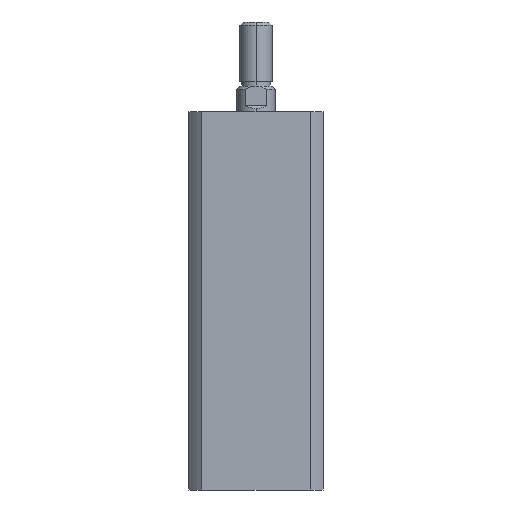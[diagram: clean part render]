
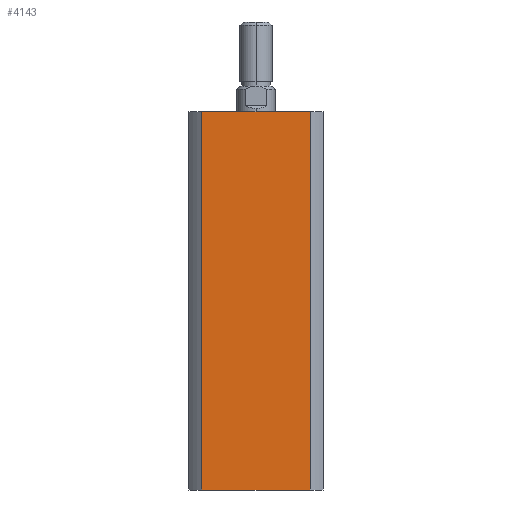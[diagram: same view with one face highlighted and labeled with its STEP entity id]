
A CAD part, left-side view. The second image highlights one B-rep face of the part: STEP entity #4143.
In plain terms, the highlighted planar face has unit normal (-1, 0, 0).
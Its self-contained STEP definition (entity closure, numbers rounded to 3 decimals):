
#102 = ORIENTED_EDGE ( 'NONE', *, *, #4358, .F. ) ;
#103 = ORIENTED_EDGE ( 'NONE', *, *, #396, .F. ) ;
#104 = ORIENTED_EDGE ( 'NONE', *, *, #4359, .F. ) ;
#105 = ORIENTED_EDGE ( 'NONE', *, *, #1452, .T. ) ;
#396 = EDGE_CURVE ( 'NONE', #1358, #1386, #2300, .T. ) ;
#445 = CARTESIAN_POINT ( 'NONE',  ( -21., 21., 118. ) ) ;
#454 = PLANE ( 'NONE',  #1525 ) ;
#456 = DIRECTION ( 'NONE',  ( 1., 0., 0. ) ) ;
#457 = DIRECTION ( 'NONE',  ( 0., 1., 0. ) ) ;
#1190 = EDGE_LOOP ( 'NONE', ( #102, #103, #104, #105 ) ) ;
#1358 = VERTEX_POINT ( 'NONE', #3147 ) ;
#1360 = VERTEX_POINT ( 'NONE', #3148 ) ;
#1364 = VERTEX_POINT ( 'NONE', #3154 ) ;
#1386 = VERTEX_POINT ( 'NONE', #3173 ) ;
#1452 = EDGE_CURVE ( 'NONE', #1360, #1364, #2425, .T. ) ;
#1525 = AXIS2_PLACEMENT_3D ( 'NONE', #445, #456, #457 ) ;
#1759 = LINE ( 'NONE', #2588, #1762 ) ;
#1761 = LINE ( 'NONE', #2590, #1764 ) ;
#1762 = VECTOR ( 'NONE', #2589, 1000. ) ;
#1764 = VECTOR ( 'NONE', #2591, 1000. ) ;
#2300 = LINE ( 'NONE', #5110, #2305 ) ;
#2305 = VECTOR ( 'NONE', #5129, 1000. ) ;
#2425 = LINE ( 'NONE', #3323, #2427 ) ;
#2427 = VECTOR ( 'NONE', #3319, 1000. ) ;
#2588 = CARTESIAN_POINT ( 'NONE',  ( -21., -16.971, 118. ) ) ;
#2589 = DIRECTION ( 'NONE',  ( 0., 0., -1. ) ) ;
#2590 = CARTESIAN_POINT ( 'NONE',  ( -21., 16.971, 118. ) ) ;
#2591 = DIRECTION ( 'NONE',  ( 0., 0., 1. ) ) ;
#3147 = CARTESIAN_POINT ( 'NONE',  ( -21., 16.971, 118. ) ) ;
#3148 = CARTESIAN_POINT ( 'NONE',  ( -21., 16.971, 0. ) ) ;
#3154 = CARTESIAN_POINT ( 'NONE',  ( -21., -16.971, 0. ) ) ;
#3173 = CARTESIAN_POINT ( 'NONE',  ( -21., -16.971, 118. ) ) ;
#3319 = DIRECTION ( 'NONE',  ( 0., -1., 0. ) ) ;
#3323 = CARTESIAN_POINT ( 'NONE',  ( -21., 21., 0. ) ) ;
#4143 = ADVANCED_FACE ( 'NONE', ( #4564 ), #454, .F. ) ;
#4358 = EDGE_CURVE ( 'NONE', #1386, #1364, #1759, .T. ) ;
#4359 = EDGE_CURVE ( 'NONE', #1360, #1358, #1761, .T. ) ;
#4564 = FACE_OUTER_BOUND ( 'NONE', #1190, .T. ) ;
#5110 = CARTESIAN_POINT ( 'NONE',  ( -21., 21., 118. ) ) ;
#5129 = DIRECTION ( 'NONE',  ( 0., -1., 0. ) ) ;
